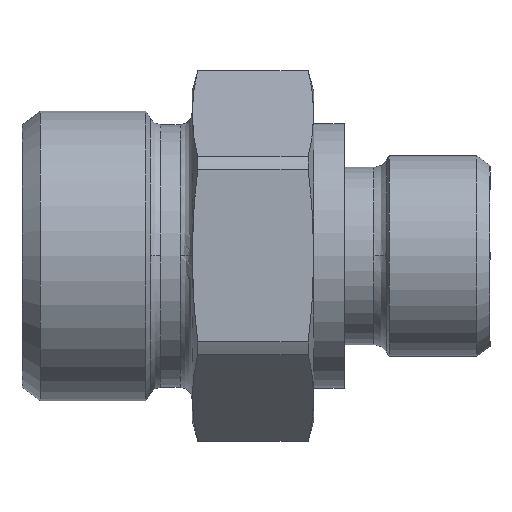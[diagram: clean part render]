
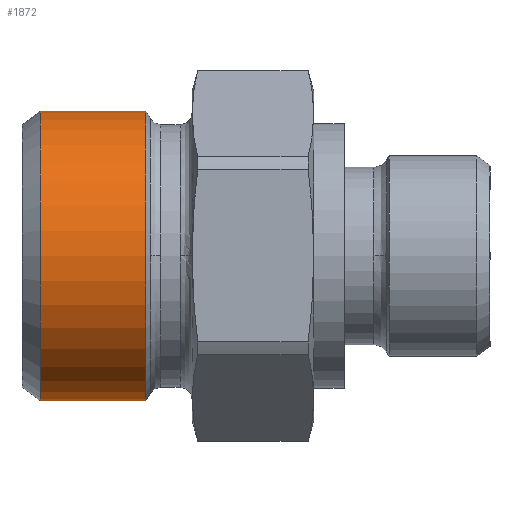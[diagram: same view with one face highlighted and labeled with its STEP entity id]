
A CAD part, top view. The second image highlights one B-rep face of the part: STEP entity #1872.
In plain terms, the highlighted cylindrical face has radius 11.925 mm (diameter 23.85 mm), a partial arc.
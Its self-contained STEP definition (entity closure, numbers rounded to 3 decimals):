
#908=CARTESIAN_POINT('',(0.,-11.925,17.507));
#909=VERTEX_POINT('',#908);
#910=CARTESIAN_POINT('',(0.,-11.925,8.8));
#911=VERTEX_POINT('',#910);
#912=CARTESIAN_POINT('',(0.,-11.925,17.507));
#913=DIRECTION('',(0.0,0.0,-1.0));
#914=VECTOR('',#913,8.708);
#915=LINE('',#912,#914);
#916=EDGE_CURVE('',#909,#911,#915,.T.);
#918=CARTESIAN_POINT('',(0.,11.925,17.507));
#919=VERTEX_POINT('',#918);
#927=CARTESIAN_POINT('',(0.,11.925,8.8));
#928=VERTEX_POINT('',#927);
#929=CARTESIAN_POINT('',(0.,11.925,8.8));
#930=DIRECTION('',(0.0,0.0,1.0));
#931=VECTOR('',#930,8.708);
#932=LINE('',#929,#931);
#933=EDGE_CURVE('',#928,#919,#932,.T.);
#1748=CARTESIAN_POINT('',(0.,0.,8.8));
#1749=DIRECTION('',(0.0,0.0,-1.0));
#1750=DIRECTION('',(0.0,-1.0,0.0));
#1751=AXIS2_PLACEMENT_3D('',#1748,#1749,#1750);
#1752=CIRCLE('',#1751,11.925);
#1753=EDGE_CURVE('',#928,#911,#1752,.T.);
#1849=CARTESIAN_POINT('',(0.,0.,17.507));
#1850=DIRECTION('',(0.0,0.0,-1.0));
#1851=DIRECTION('',(0.0,-1.0,0.0));
#1852=AXIS2_PLACEMENT_3D('',#1849,#1850,#1851);
#1853=CIRCLE('',#1852,11.925);
#1854=EDGE_CURVE('',#919,#909,#1853,.T.);
#1861=CARTESIAN_POINT('',(0.,0.,13.153));
#1862=DIRECTION('',(0.,0.,-1.0));
#1863=DIRECTION('',(0.0,-1.0,0.0));
#1864=AXIS2_PLACEMENT_3D('',#1861,#1862,#1863);
#1865=CYLINDRICAL_SURFACE('',#1864,11.925);
#1866=ORIENTED_EDGE('',*,*,#916,.T.);
#1867=ORIENTED_EDGE('',*,*,#1753,.F.);
#1868=ORIENTED_EDGE('',*,*,#933,.T.);
#1869=ORIENTED_EDGE('',*,*,#1854,.T.);
#1870=EDGE_LOOP('',(#1866,#1867,#1868,#1869));
#1871=FACE_OUTER_BOUND('',#1870,.T.);
#1872=ADVANCED_FACE('',(#1871),#1865,.T.);
